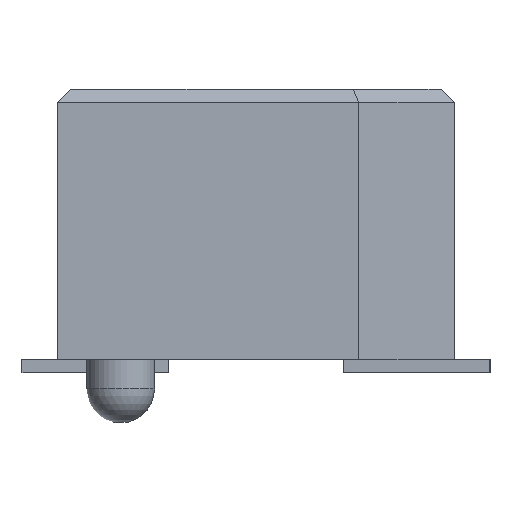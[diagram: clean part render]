
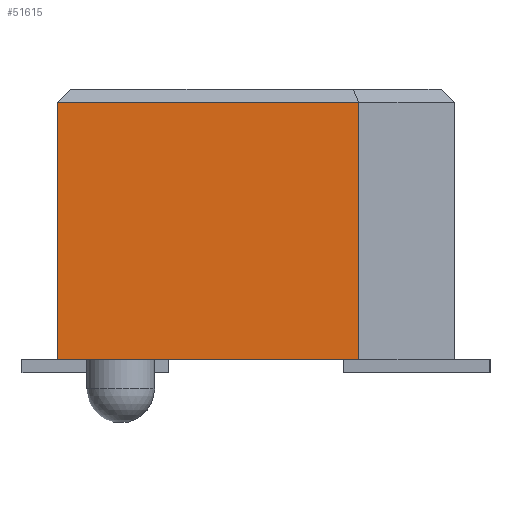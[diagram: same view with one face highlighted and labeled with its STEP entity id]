
A CAD part, left-side view. The second image highlights one B-rep face of the part: STEP entity #51615.
In plain terms, the highlighted planar face has unit normal (-1, 0, 0).
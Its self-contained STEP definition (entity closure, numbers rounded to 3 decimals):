
#170 = PLANE('',#171);
#171 = AXIS2_PLACEMENT_3D('',#172,#173,#174);
#172 = CARTESIAN_POINT('',(18.,2.985,0.239));
#173 = DIRECTION('',(0.,0.,1.));
#174 = DIRECTION('',(0.,-1.,0.));
#37761 = PLANE('',#37762);
#37762 = AXIS2_PLACEMENT_3D('',#37763,#37764,#37765);
#37763 = CARTESIAN_POINT('',(-17.8,2.985,4.306));
#37764 = DIRECTION('',(-0.707,0.,0.707
    ));
#37765 = DIRECTION('',(-0.707,0.,
    -0.707));
#41734 = PLANE('',#41735);
#41735 = AXIS2_PLACEMENT_3D('',#41736,#41737,#41738);
#41736 = CARTESIAN_POINT('',(18.,2.985,4.306));
#41737 = DIRECTION('',(0.,-1.,0.));
#41738 = DIRECTION('',(1.,0.,0.));
#46111 = VERTEX_POINT('',#46112);
#46112 = CARTESIAN_POINT('',(-18.,-1.545,0.239));
#46126 = PLANE('',#46127);
#46127 = AXIS2_PLACEMENT_3D('',#46128,#46129,#46130);
#46128 = CARTESIAN_POINT('',(-18.,-1.545,4.306));
#46129 = DIRECTION('',(0.707,0.707,0.
    ));
#46130 = DIRECTION('',(-0.707,0.707,
    0.));
#46138 = EDGE_CURVE('',#46139,#46111,#46141,.T.);
#46139 = VERTEX_POINT('',#46140);
#46140 = CARTESIAN_POINT('',(-18.,2.985,0.239));
#46141 = SURFACE_CURVE('',#46142,(#46146,#46153),.PCURVE_S1.);
#46142 = LINE('',#46143,#46144);
#46143 = CARTESIAN_POINT('',(-18.,2.985,0.239));
#46144 = VECTOR('',#46145,1.);
#46145 = DIRECTION('',(0.,-1.,0.));
#46146 = PCURVE('',#170,#46147);
#46147 = DEFINITIONAL_REPRESENTATION('',(#46148),#46152);
#46148 = LINE('',#46149,#46150);
#46149 = CARTESIAN_POINT('',(0.,-36.));
#46150 = VECTOR('',#46151,1.);
#46151 = DIRECTION('',(1.,0.));
#46152 = ( GEOMETRIC_REPRESENTATION_CONTEXT(2) 
PARAMETRIC_REPRESENTATION_CONTEXT() REPRESENTATION_CONTEXT('2D SPACE',''
  ) );
#46153 = PCURVE('',#46154,#46159);
#46154 = PLANE('',#46155);
#46155 = AXIS2_PLACEMENT_3D('',#46156,#46157,#46158);
#46156 = CARTESIAN_POINT('',(-18.,2.985,4.306));
#46157 = DIRECTION('',(1.,0.,0.));
#46158 = DIRECTION('',(0.,1.,0.));
#46159 = DEFINITIONAL_REPRESENTATION('',(#46160),#46164);
#46160 = LINE('',#46161,#46162);
#46161 = CARTESIAN_POINT('',(0.,-4.067));
#46162 = VECTOR('',#46163,1.);
#46163 = DIRECTION('',(-1.,0.));
#46164 = ( GEOMETRIC_REPRESENTATION_CONTEXT(2) 
PARAMETRIC_REPRESENTATION_CONTEXT() REPRESENTATION_CONTEXT('2D SPACE',''
  ) );
#50490 = EDGE_CURVE('',#50491,#46139,#50493,.T.);
#50491 = VERTEX_POINT('',#50492);
#50492 = CARTESIAN_POINT('',(-18.,2.985,4.106));
#50493 = SURFACE_CURVE('',#50494,(#50498,#50505),.PCURVE_S1.);
#50494 = LINE('',#50495,#50496);
#50495 = CARTESIAN_POINT('',(-18.,2.985,4.306));
#50496 = VECTOR('',#50497,1.);
#50497 = DIRECTION('',(0.,0.,-1.));
#50498 = PCURVE('',#41734,#50499);
#50499 = DEFINITIONAL_REPRESENTATION('',(#50500),#50504);
#50500 = LINE('',#50501,#50502);
#50501 = CARTESIAN_POINT('',(-36.,0.));
#50502 = VECTOR('',#50503,1.);
#50503 = DIRECTION('',(0.,-1.));
#50504 = ( GEOMETRIC_REPRESENTATION_CONTEXT(2) 
PARAMETRIC_REPRESENTATION_CONTEXT() REPRESENTATION_CONTEXT('2D SPACE',''
  ) );
#50505 = PCURVE('',#46154,#50506);
#50506 = DEFINITIONAL_REPRESENTATION('',(#50507),#50511);
#50507 = LINE('',#50508,#50509);
#50508 = CARTESIAN_POINT('',(0.,0.));
#50509 = VECTOR('',#50510,1.);
#50510 = DIRECTION('',(0.,-1.));
#50511 = ( GEOMETRIC_REPRESENTATION_CONTEXT(2) 
PARAMETRIC_REPRESENTATION_CONTEXT() REPRESENTATION_CONTEXT('2D SPACE',''
  ) );
#51615 = ADVANCED_FACE('',(#51616),#46154,.F.);
#51616 = FACE_BOUND('',#51617,.T.);
#51617 = EDGE_LOOP('',(#51618,#51641,#51662,#51663));
#51618 = ORIENTED_EDGE('',*,*,#51619,.F.);
#51619 = EDGE_CURVE('',#51620,#46111,#51622,.T.);
#51620 = VERTEX_POINT('',#51621);
#51621 = CARTESIAN_POINT('',(-18.,-1.545,4.106));
#51622 = SURFACE_CURVE('',#51623,(#51627,#51634),.PCURVE_S1.);
#51623 = LINE('',#51624,#51625);
#51624 = CARTESIAN_POINT('',(-18.,-1.545,4.306));
#51625 = VECTOR('',#51626,1.);
#51626 = DIRECTION('',(0.,0.,-1.));
#51627 = PCURVE('',#46154,#51628);
#51628 = DEFINITIONAL_REPRESENTATION('',(#51629),#51633);
#51629 = LINE('',#51630,#51631);
#51630 = CARTESIAN_POINT('',(-4.53,0.));
#51631 = VECTOR('',#51632,1.);
#51632 = DIRECTION('',(0.,-1.));
#51633 = ( GEOMETRIC_REPRESENTATION_CONTEXT(2) 
PARAMETRIC_REPRESENTATION_CONTEXT() REPRESENTATION_CONTEXT('2D SPACE',''
  ) );
#51634 = PCURVE('',#46126,#51635);
#51635 = DEFINITIONAL_REPRESENTATION('',(#51636),#51640);
#51636 = LINE('',#51637,#51638);
#51637 = CARTESIAN_POINT('',(0.,0.));
#51638 = VECTOR('',#51639,1.);
#51639 = DIRECTION('',(0.,-1.));
#51640 = ( GEOMETRIC_REPRESENTATION_CONTEXT(2) 
PARAMETRIC_REPRESENTATION_CONTEXT() REPRESENTATION_CONTEXT('2D SPACE',''
  ) );
#51641 = ORIENTED_EDGE('',*,*,#51642,.T.);
#51642 = EDGE_CURVE('',#51620,#50491,#51643,.T.);
#51643 = SURFACE_CURVE('',#51644,(#51648,#51655),.PCURVE_S1.);
#51644 = LINE('',#51645,#51646);
#51645 = CARTESIAN_POINT('',(-18.,2.985,4.106));
#51646 = VECTOR('',#51647,1.);
#51647 = DIRECTION('',(0.,1.,0.));
#51648 = PCURVE('',#46154,#51649);
#51649 = DEFINITIONAL_REPRESENTATION('',(#51650),#51654);
#51650 = LINE('',#51651,#51652);
#51651 = CARTESIAN_POINT('',(0.,-0.2));
#51652 = VECTOR('',#51653,1.);
#51653 = DIRECTION('',(1.,0.));
#51654 = ( GEOMETRIC_REPRESENTATION_CONTEXT(2) 
PARAMETRIC_REPRESENTATION_CONTEXT() REPRESENTATION_CONTEXT('2D SPACE',''
  ) );
#51655 = PCURVE('',#37761,#51656);
#51656 = DEFINITIONAL_REPRESENTATION('',(#51657),#51661);
#51657 = LINE('',#51658,#51659);
#51658 = CARTESIAN_POINT('',(0.283,0.));
#51659 = VECTOR('',#51660,1.);
#51660 = DIRECTION('',(0.,-1.));
#51661 = ( GEOMETRIC_REPRESENTATION_CONTEXT(2) 
PARAMETRIC_REPRESENTATION_CONTEXT() REPRESENTATION_CONTEXT('2D SPACE',''
  ) );
#51662 = ORIENTED_EDGE('',*,*,#50490,.T.);
#51663 = ORIENTED_EDGE('',*,*,#46138,.T.);
